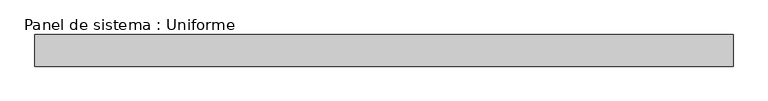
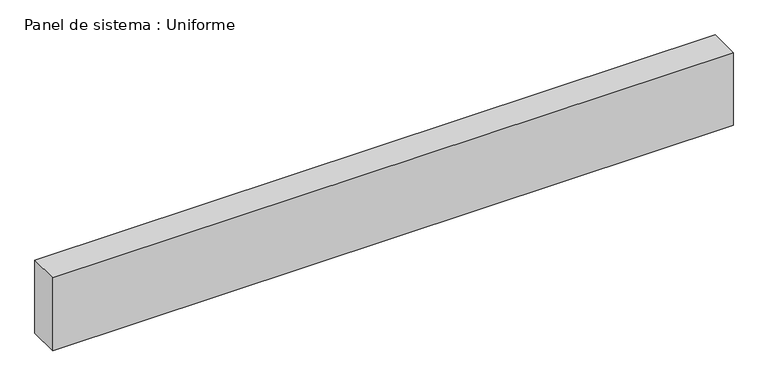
"""IFC4 building model written with IfcOpenShell, lengths in millimetres: plate geometry, Panel de sistema : Uniforme."""

from ifc_helpers import new_model, si_unit, origin, origin_with_axes, place, context, project, spatial, polyline, outline, extrude, source, transform, mapped, element, save


def panel_de_sistema_uniforme_b9339d03(model_context):
    return source(origin(), model_context, "Body", "SweptSolid", [
        extrude(outline(polyline([(1104.1776503, -50.0), (-1104.1776503, -50.0), (-1104.1776503, 50.0), (1104.1776503, 50.0), (1104.1776503, -50.0)])), origin_with_axes(), (0.0, 0.0, 1.0), 250.0),
    ])


if __name__ == "__main__":
    model = new_model("IFC4")
    model_context = context("Model", 3, world=origin())
    ifc_project = project(units=[si_unit("LENGTHUNIT", "METRE", prefix="MILLI")], contexts=[model_context])
    site = spatial("IfcSite", under=ifc_project)
    building = spatial("IfcBuilding", under=site)
    placement = place(None, origin())
    panel_de_sistema_uniforme_shape = panel_de_sistema_uniforme_b9339d03(model_context)
    element("IfcPlate", 1, ObjectType="Panel de sistema : Uniforme", at=placement, inside=building, context=model_context, shape_type="MappedRepresentation", body=[
        mapped(panel_de_sistema_uniforme_shape, transform((0.0, 0.0, 0.0), x_axis=(1.0, 0.0, 0.0), y_axis=(0.0, 1.0, 0.0), z_axis=(0.0, 0.0, 1.0))),
    ])
    save(model, "model.ifc")
